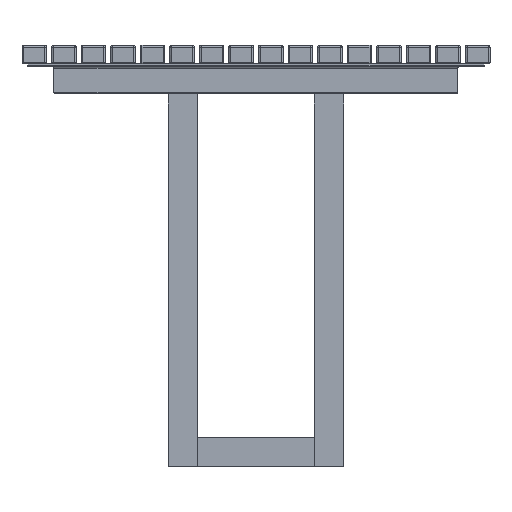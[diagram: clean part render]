
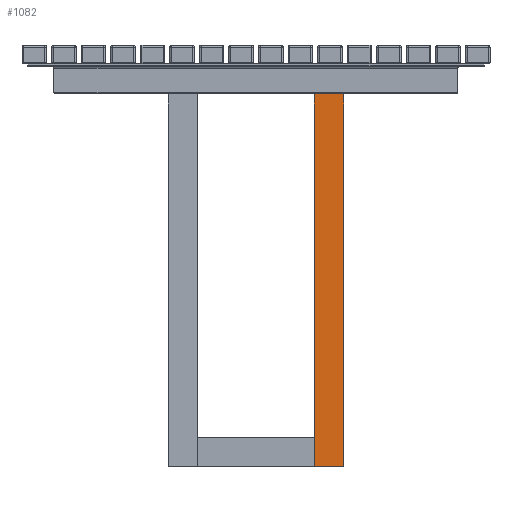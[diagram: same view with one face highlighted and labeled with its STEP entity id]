
A CAD part, left-side view. The second image highlights one B-rep face of the part: STEP entity #1082.
In plain terms, the highlighted planar face has unit normal (-1, 0, 0).
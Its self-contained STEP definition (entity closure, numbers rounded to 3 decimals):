
#1082=ADVANCED_FACE('',(#1788),#10141,.T.);
#1788=FACE_OUTER_BOUND('',#2566,.T.);
#2566=EDGE_LOOP('',(#5357,#5358,#5359,#5360));
#5357=ORIENTED_EDGE('',*,*,#6978,.F.);
#5358=ORIENTED_EDGE('',*,*,#6977,.F.);
#5359=ORIENTED_EDGE('',*,*,#7003,.T.);
#5360=ORIENTED_EDGE('',*,*,#6972,.F.);
#6972=EDGE_CURVE('',#9379,#9378,#8542,.T.);
#6977=EDGE_CURVE('',#9386,#9387,#8547,.T.);
#6978=EDGE_CURVE('',#9387,#9379,#8548,.T.);
#7003=EDGE_CURVE('',#9386,#9378,#8564,.T.);
#8542=B_SPLINE_CURVE_WITH_KNOTS('',1,(#19271,#19272),.UNSPECIFIED.,.F.,
 .F.,(2,2),(-5.,0.),.UNSPECIFIED.);
#8547=B_SPLINE_CURVE_WITH_KNOTS('',1,(#19281,#19282),.UNSPECIFIED.,.F.,
 .F.,(2,2),(0.,5.),.UNSPECIFIED.);
#8548=B_SPLINE_CURVE_WITH_KNOTS('',1,(#19283,#19284),.UNSPECIFIED.,.F.,
 .F.,(2,2),(0.,68.3),.UNSPECIFIED.);
#8564=B_SPLINE_CURVE_WITH_KNOTS('',1,(#19339,#19340,#19341),
 .UNSPECIFIED.,.F.,.F.,(2,1,2),(0.,63.3,68.3),.UNSPECIFIED.);
#9378=VERTEX_POINT('',#19250);
#9379=VERTEX_POINT('',#19251);
#9386=VERTEX_POINT('',#19258);
#9387=VERTEX_POINT('',#19259);
#10141=PLANE('',#10359);
#10359=AXIS2_PLACEMENT_3D('',#19222,#10561,$);
#10561=DIRECTION('',(-1.,0.,0.));
#19222=CARTESIAN_POINT('',(210.,300.01,-0.01));
#19250=CARTESIAN_POINT('',(210.,300.,0.));
#19251=CARTESIAN_POINT('',(210.,250.,0.));
#19258=CARTESIAN_POINT('',(210.,300.,683.));
#19259=CARTESIAN_POINT('',(210.,250.,683.));
#19271=CARTESIAN_POINT('',(210.,250.,0.));
#19272=CARTESIAN_POINT('',(210.,300.,0.));
#19281=CARTESIAN_POINT('',(210.,300.,683.));
#19282=CARTESIAN_POINT('',(210.,250.,683.));
#19283=CARTESIAN_POINT('',(210.,250.,683.));
#19284=CARTESIAN_POINT('',(210.,250.,0.));
#19339=CARTESIAN_POINT('',(210.,300.,683.));
#19340=CARTESIAN_POINT('',(210.,300.,50.));
#19341=CARTESIAN_POINT('',(210.,300.,0.));
